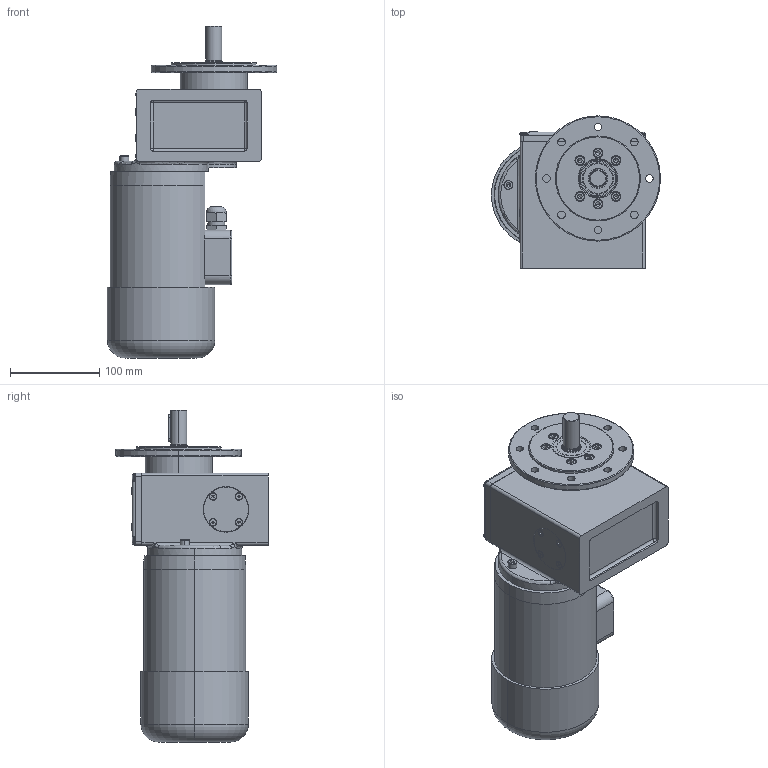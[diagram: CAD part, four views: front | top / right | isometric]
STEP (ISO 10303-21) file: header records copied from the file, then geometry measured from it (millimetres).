
FILE_DESCRIPTION (( 'STEP AP214' ), '1' );
FILE_NAME ('SN7F_250W_Gleichstrom-Motor.STEP', '2022-08-25T11:55:10', ( '' ), ( '' ), 'SwSTEP 2.0', 'SolidWorks 2021', '' );
FILE_SCHEMA (( 'AUTOMOTIVE_DESIGN' ));
Length unit declared in the file: millimetre
Products named in the file (18): socket head cap screw_iso_ISO 4762 M6 x 30 - 30C; socket head cap screw_iso_ISO 4762 M6 x 20 - 20C; socket head cap screw_iso_ISO 4762 M6 x 40 - 40C; NBR_WDR_20x42x7; SN7F_250W_Gleichstrom-Motor; socket set screw flat point_iso_ISO 4026 - M6 x 45-C; 07F-F-001_3D_Export; socket countersunk head screw_iso_ISO 10642 - M4 x 10 - 10C; slotted pan head screw_iso_ISO 1580 - M5 x 16 - 16C; SN7F_3D_Export; 07F-W-001_3D_Export; slotted cheese head screw_iso_ISO 1207 - M5 x 6 - 6C; 01-D-001_3D_Export; 07-M-023 I 250W_3000Upm; U-Seal Ring Ø5; 07-D-012_3D_Export; PF_A6x6x30; 07F-G-001_3D_Export
Assembly tree (37 placements, depth 3):
  SN7F_250W_Gleichstrom-Motor
    SN7F_3D_Export
      07F-G-001_3D_Export
      07F-W-001_3D_Export
      07F-F-001_3D_Export
      01-D-001_3D_Export  x2
      07-D-012_3D_Export
      NBR_WDR_20x42x7
      PF_A6x6x30
      U-Seal Ring Ø5  x2
      socket head cap screw_iso_ISO 4762 M6 x 40 - 40C  x6
      socket countersunk head screw_iso_ISO 10642 - M4 x 10 - 10C  x8
      slotted pan head screw_iso_ISO 1580 - M5 x 16 - 16C  x6
      slotted cheese head screw_iso_ISO 1207 - M5 x 6 - 6C  x2
      socket head cap screw_iso_ISO 4762 M6 x 20 - 20C
      socket head cap screw_iso_ISO 4762 M6 x 30 - 30C
      socket set screw flat point_iso_ISO 4026 - M6 x 45-C
    07-M-023 I 250W_3000Upm
Bounding box: 189 x 170 x 371 mm (x, y, z)
Volume: 4276747.9 mm3; surface area: 313100.4 mm2
Topology: 36 solids, 36 shells, 996 faces, 2216 edges, 1323 vertices
Faces by surface type: plane 409, cylinder 321, cone 162, torus 91, sphere 8, bspline 5
Entity records: 18064 total; most frequent: CARTESIAN_POINT 3680, DIRECTION 3093, ORIENTED_EDGE 2548, EDGE_CURVE 1274, AXIS2_PLACEMENT_3D 1272, VERTEX_POINT 795, EDGE_LOOP 699, CIRCLE 661
